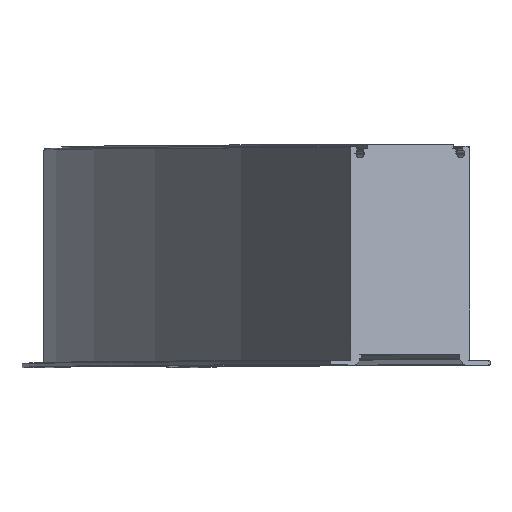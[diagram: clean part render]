
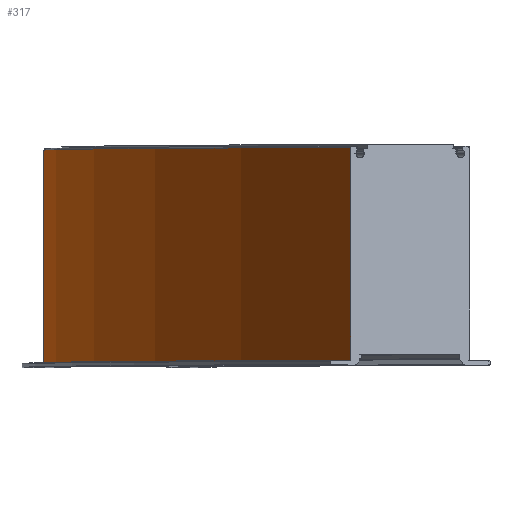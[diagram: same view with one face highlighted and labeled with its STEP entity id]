
A CAD part, top view. The second image highlights one B-rep face of the part: STEP entity #317.
In plain terms, the highlighted cylindrical face has radius 1473.5 mm (diameter 2947 mm), a partial arc.
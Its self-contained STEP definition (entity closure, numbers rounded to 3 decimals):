
#2 = AXIS2_PLACEMENT_3D ( 'NONE', #385, #691, #98 ) ;
#62 = DIRECTION ( 'NONE',  ( -1., 0., 0. ) ) ;
#74 = VERTEX_POINT ( 'NONE', #858 ) ;
#98 = DIRECTION ( 'NONE',  ( -1., 0., 0. ) ) ;
#176 = VERTEX_POINT ( 'NONE', #1502 ) ;
#222 = CARTESIAN_POINT ( 'NONE',  ( 1450., 1.8, 0. ) ) ;
#264 = FACE_OUTER_BOUND ( 'NONE', #1894, .T. ) ;
#315 = CIRCLE ( 'NONE', #2, 1473.5 ) ;
#317 = ADVANCED_FACE ( 'NONE', ( #264 ), #1019, .T. ) ;
#336 = VERTEX_POINT ( 'NONE', #1306 ) ;
#385 = CARTESIAN_POINT ( 'NONE',  ( 1450., 79.5, 0. ) ) ;
#425 = ORIENTED_EDGE ( 'NONE', *, *, #912, .F. ) ;
#456 = EDGE_CURVE ( 'NONE', #874, #336, #669, .T. ) ;
#498 = ORIENTED_EDGE ( 'NONE', *, *, #1277, .F. ) ;
#669 = CIRCLE ( 'NONE', #804, 1473.5 ) ;
#691 = DIRECTION ( 'NONE',  ( 0., 1., 0. ) ) ;
#803 = DIRECTION ( 'NONE',  ( 0., -1., 0. ) ) ;
#804 = AXIS2_PLACEMENT_3D ( 'NONE', #222, #1422, #62 ) ;
#817 = DIRECTION ( 'NONE',  ( 0., -1., 0. ) ) ;
#858 = CARTESIAN_POINT ( 'NONE',  ( 88.664, 79.5, 563.884 ) ) ;
#874 = VERTEX_POINT ( 'NONE', #1826 ) ;
#912 = EDGE_CURVE ( 'NONE', #74, #336, #1762, .T. ) ;
#1019 = CYLINDRICAL_SURFACE ( 'NONE', #1031, 1473.5 ) ;
#1029 = LINE ( 'NONE', #1823, #1620 ) ;
#1031 = AXIS2_PLACEMENT_3D ( 'NONE', #1103, #1397, #1809 ) ;
#1103 = CARTESIAN_POINT ( 'NONE',  ( 1450., 0., 0. ) ) ;
#1176 = EDGE_CURVE ( 'NONE', #176, #874, #1029, .T. ) ;
#1277 = EDGE_CURVE ( 'NONE', #176, #74, #315, .T. ) ;
#1306 = CARTESIAN_POINT ( 'NONE',  ( 88.664, 1.8, 563.884 ) ) ;
#1330 = ORIENTED_EDGE ( 'NONE', *, *, #456, .T. ) ;
#1357 = VECTOR ( 'NONE', #817, 1000. ) ;
#1395 = CARTESIAN_POINT ( 'NONE',  ( 88.664, 1.8, 563.884 ) ) ;
#1397 = DIRECTION ( 'NONE',  ( 0., 1., 0. ) ) ;
#1422 = DIRECTION ( 'NONE',  ( 0., 1., 0. ) ) ;
#1467 = ORIENTED_EDGE ( 'NONE', *, *, #1176, .T. ) ;
#1502 = CARTESIAN_POINT ( 'NONE',  ( -23.5, 79.5, 0. ) ) ;
#1620 = VECTOR ( 'NONE', #803, 1000. ) ;
#1762 = LINE ( 'NONE', #1395, #1357 ) ;
#1809 = DIRECTION ( 'NONE',  ( 0., 0., 1. ) ) ;
#1823 = CARTESIAN_POINT ( 'NONE',  ( -23.5, 1.8, 0. ) ) ;
#1826 = CARTESIAN_POINT ( 'NONE',  ( -23.5, 1.8, 0. ) ) ;
#1894 = EDGE_LOOP ( 'NONE', ( #1330, #425, #498, #1467 ) ) ;
